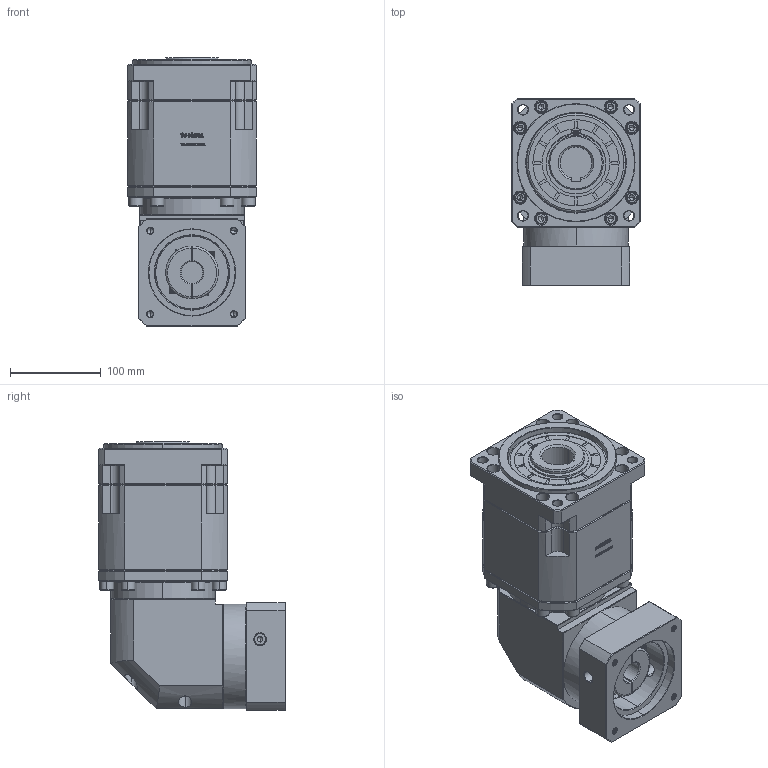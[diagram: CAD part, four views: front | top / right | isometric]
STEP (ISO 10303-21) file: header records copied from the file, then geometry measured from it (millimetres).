
FILE_DESCRIPTION (( 'STEP AP214' ), '1' );
FILE_NAME ('ZBR142A-K35-L3-24-95-130-M8.step', '2023-03-20T04:18:02', ( '' ), ( '' ), 'SwSTEP 2.0', 'SolidWorks 2016', '' );
FILE_SCHEMA (( 'AUTOMOTIVE_DESIGN' ));
Length unit declared in the file: millimetre
Products named in the file (1): ZBR142A-K35-L3-24-95-130-M8
Bounding box: 142 x 205.9 x 295.2 mm (x, y, z)
Volume: 4984373.2 mm3; surface area: 331634 mm2
Topology: 6 solids, 6 shells, 3130 faces, 8265 edges, 5302 vertices
Faces by surface type: plane 1645, bspline 585, cylinder 465, cone 391, torus 44
Entity records: 164122 total; most frequent: CARTESIAN_POINT 56678, ORIENTED_EDGE 16426, DIRECTION 12886, EDGE_CURVE 8213, LINE 5530, VECTOR 5530, VERTEX_POINT 5302, AXIS2_PLACEMENT_3D 3678
